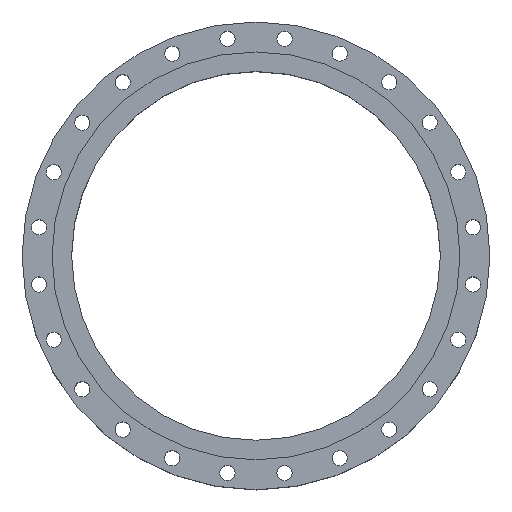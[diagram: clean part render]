
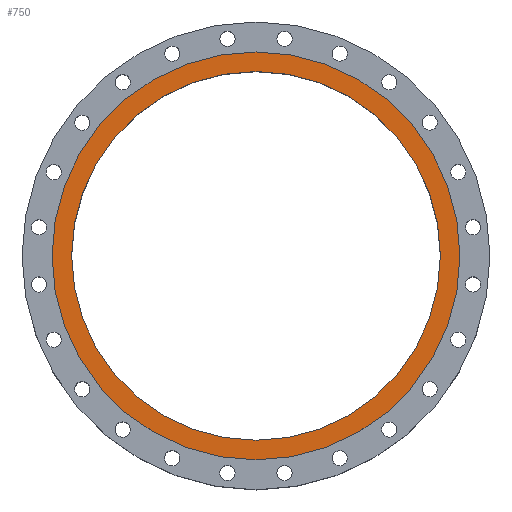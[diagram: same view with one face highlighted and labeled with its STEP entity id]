
A CAD part, top view. The second image highlights one B-rep face of the part: STEP entity #750.
In plain terms, the highlighted planar face has unit normal (0, 0, 1).
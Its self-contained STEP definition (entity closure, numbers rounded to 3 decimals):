
#750=ADVANCED_FACE('',(#1679,#1681),#1683,.T.);
#1679=FACE_BOUND('',#1680,.T.);
#1680=EDGE_LOOP('',(#2044));
#1681=FACE_BOUND('',#1682,.T.);
#1682=EDGE_LOOP('',(#2045));
#1683=PLANE('',#1684);
#1684=AXIS2_PLACEMENT_3D('',#1685,#1686,#1687);
#1685=CARTESIAN_POINT('',(0.,0.,132.5));
#1686=DIRECTION('',(0.,0.,1.));
#1687=DIRECTION('',(0.,1.,0.));
#2044=ORIENTED_EDGE('',*,*,#2208,.F.);
#2045=ORIENTED_EDGE('',*,*,#2210,.T.);
#2208=EDGE_CURVE('',#2502,#2502,#2503,.T.);
#2210=EDGE_CURVE('',#2506,#2506,#2507,.T.);
#2502=VERTEX_POINT('',#4148);
#2503=CIRCLE('',#4149,442.5);
#2506=VERTEX_POINT('',#4158);
#2507=CIRCLE('',#4159,400.);
#4148=CARTESIAN_POINT('',(0.,442.5,132.5));
#4149=AXIS2_PLACEMENT_3D('',#4150,#4151,#4152);
#4150=CARTESIAN_POINT('',(0.,0.,132.5));
#4151=DIRECTION('',(0.,0.,-1.));
#4152=DIRECTION('',(0.,1.,0.));
#4158=CARTESIAN_POINT('',(0.,400.,132.5));
#4159=AXIS2_PLACEMENT_3D('',#4160,#4161,#4162);
#4160=CARTESIAN_POINT('',(0.,0.,132.5));
#4161=DIRECTION('',(0.,0.,-1.));
#4162=DIRECTION('',(0.,1.,0.));
